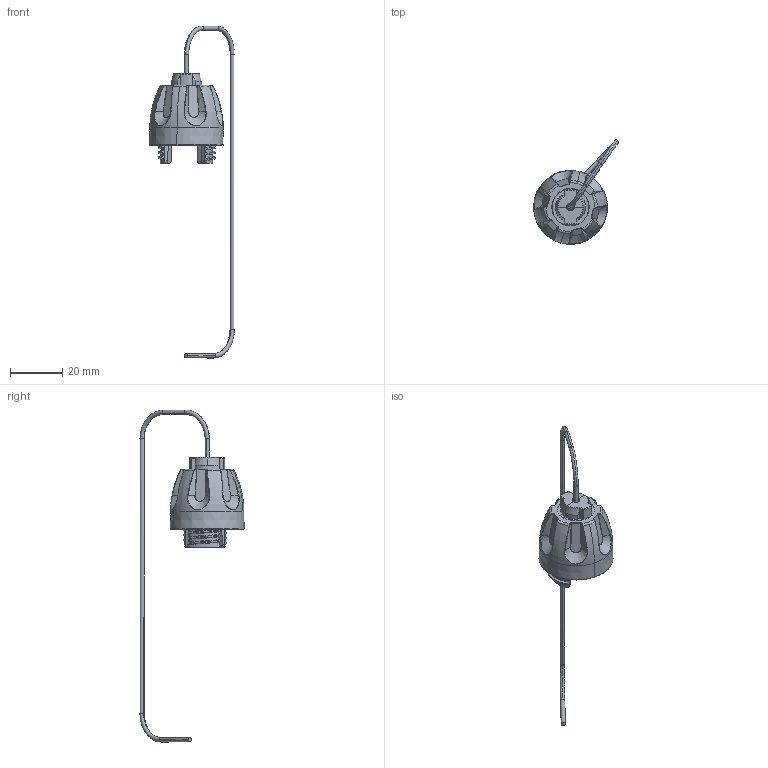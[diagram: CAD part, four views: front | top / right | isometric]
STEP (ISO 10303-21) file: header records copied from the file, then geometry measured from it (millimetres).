
FILE_DESCRIPTION (( 'STEP AP214' ), '1' );
FILE_NAME ('QMINI-DCHPP.STEP', '2025-05-22T23:34:40', ( '' ), ( '' ), 'SwSTEP 2.0', 'SolidWorks 2024', '' );
FILE_SCHEMA (( 'AUTOMOTIVE_DESIGN' ));
Length unit declared in the file: inch
Products named in the file (1): QMINI-DCHPP
Bounding box: 32.43 x 39.91 x 127.13 mm (x, y, z)
Volume: 10646.7 mm3; surface area: 6789.8 mm2
Topology: 1 solids, 1 shells, 329 faces, 808 edges, 486 vertices
Faces by surface type: bspline 136, cylinder 71, torus 35, cone 33, plane 33, sphere 21
Entity records: 14862 total; most frequent: CARTESIAN_POINT 8248, ORIENTED_EDGE 1612, DIRECTION 1118, EDGE_CURVE 806, VERTEX_POINT 485, AXIS2_PLACEMENT_3D 483, EDGE_LOOP 335, ADVANCED_FACE 329
